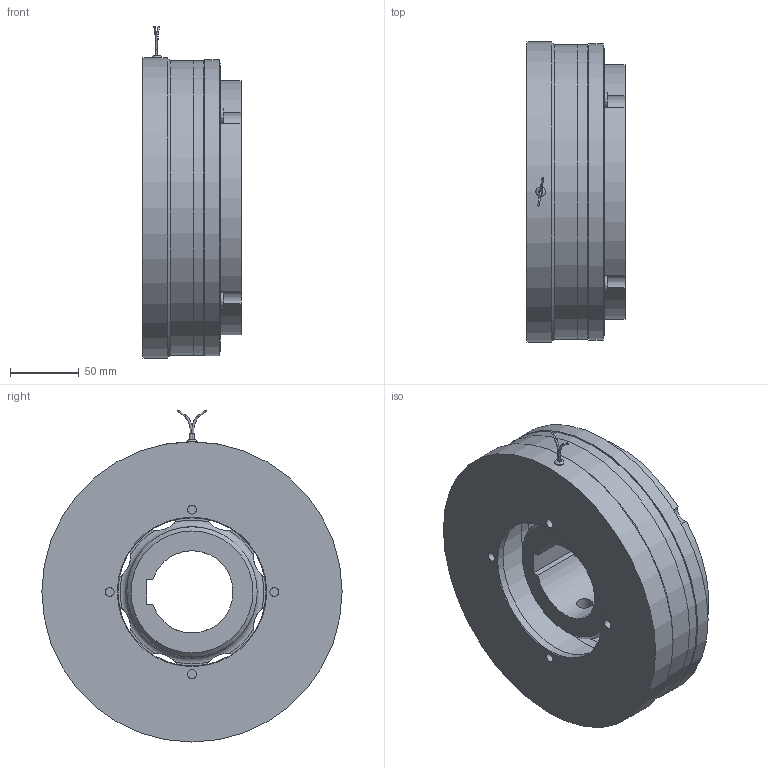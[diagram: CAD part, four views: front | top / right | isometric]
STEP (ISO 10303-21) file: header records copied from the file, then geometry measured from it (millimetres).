
FILE_DESCRIPTION(/* description */ (''),/* implementation_level */ '2;1');
FILE_NAME(/* name */ 'X:\INVENTOR\DISEGNI\08_Freni_Friz_Elettmag_Monodisco\08_28 EMFL_DF\EMFL_DF STEP\08_28_210_13 EMFL210_DF-C-MI@STEP.stp',/* time_stamp */ '2018-04-23T09:49:05+02:00',/* author */ ('stefano'),/* organization */ (''),/* preprocessor_version */ 'ST-DEVELOPER v17',/* originating_system */ 'Autodesk Inventor 2018',/* authorisation */ '');
FILE_SCHEMA (('AUTOMOTIVE_DESIGN { 1 0 10303 214 3 1 1 }'));
Length unit declared in the file: millimetre
Products named in the file (1): 08_28_210_13 EMFL210_DF-C-MI_Substitute_1
Bounding box: 71.5 x 219 x 242.22 mm (x, y, z)
Volume: 1423383.6 mm3; surface area: 310448.1 mm2
Topology: 1 solids, 1 shells, 364 faces, 1170 edges, 753 vertices
Faces by surface type: cylinder 199, plane 118, cone 35, torus 10, bspline 2
Full cylindrical faces by diameter (mm): 1.154 x2, 1.5 x1, 6.5 x4, 6.647 x4, 7 x8, 11 x8, 11.835 x2, 13 x16, 38 x8, 95 x1, 108 x1, 132 x2, 134 x1, 136 x1, 154.5 x1, 164 x2, 192 x2, 198.5 x1, 210 x1, 215 x2, 216 x1, 219 x1
Entity records: 14606 total; most frequent: CARTESIAN_POINT 3171, DIRECTION 2589, ORIENTED_EDGE 2330, EDGE_CURVE 1165, AXIS2_PLACEMENT_3D 1142, CIRCLE 779, VERTEX_POINT 753, EDGE_LOOP 452
